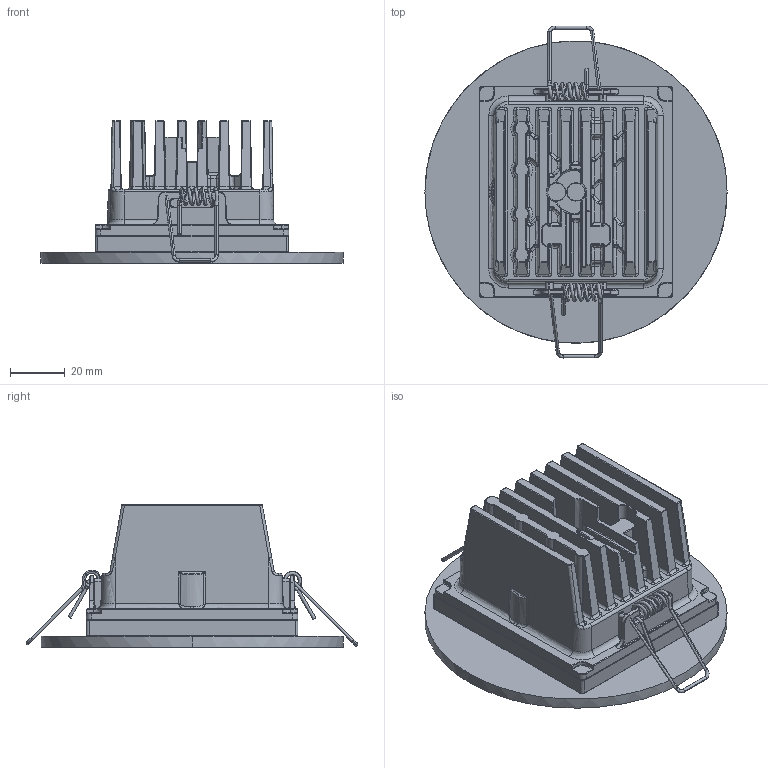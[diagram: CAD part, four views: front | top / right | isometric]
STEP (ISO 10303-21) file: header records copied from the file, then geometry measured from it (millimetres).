
FILE_DESCRIPTION(/* description */ (''),/* implementation_level */ '2;1');
FILE_NAME(/* name */ 'NL1709200_ZENO UP 4 FROSTED',/* time_stamp */ '2018-02-01T11:45:57+01:00',/* author */ (''),/* organization */ (''),/* preprocessor_version */ 'ST-DEVELOPER v15',/* originating_system */ '',/* authorisation */ '');
FILE_SCHEMA (('CONFIG_CONTROL_DESIGN'));
Length unit declared in the file: millimetre
Products named in the file (1): Document
Bounding box: 110 x 120.87 x 52 mm (x, y, z)
Volume: 56355.2 mm3; surface area: 74316 mm2
Topology: 4 solids, 7 shells, 1458 faces, 3466 edges, 1841 vertices
Faces by surface type: bspline 1217, plane 241
Entity records: 64971 total; most frequent: CARTESIAN_POINT 46758, ORIENTED_EDGE 6552, EDGE_CURVE 3280, VERTEX_POINT 1841, EDGE_LOOP 1469, ADVANCED_FACE 1456, FACE_OUTER_BOUND 1456, B_SPLINE_CURVE_WITH_KNOTS 1316
